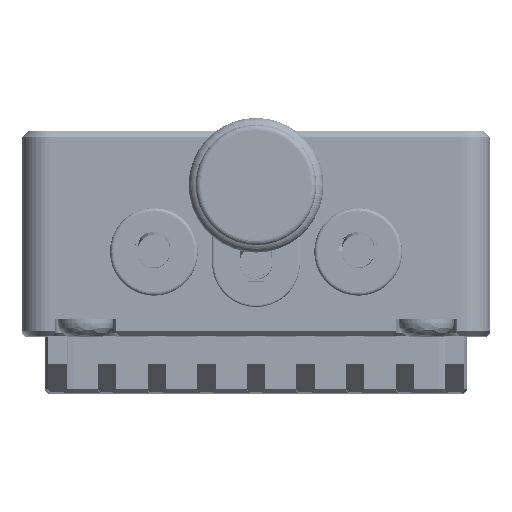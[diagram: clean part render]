
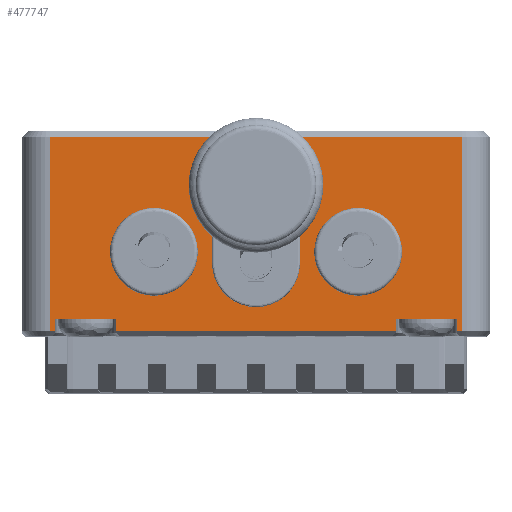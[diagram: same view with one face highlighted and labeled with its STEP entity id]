
A CAD part, top view. The second image highlights one B-rep face of the part: STEP entity #477747.
In plain terms, the highlighted planar face has unit normal (0, 0, 1).
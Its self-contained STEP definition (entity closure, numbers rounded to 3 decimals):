
#12573=DIRECTION('',(-1.,0.,0.));
#12574=VECTOR('',#12573,0.35);
#12575=CARTESIAN_POINT('',(14.5,-5.6,
35.5));
#12576=LINE('',#12575,#12574);
#12577=DIRECTION('',(0.,1.,0.));
#12578=VECTOR('',#12577,0.9);
#12579=CARTESIAN_POINT('',(14.15,-5.6,35.5));
#12580=LINE('',#12579,#12578);
#12581=DIRECTION('',(1.,0.,0.));
#12582=VECTOR('',#12581,4.3);
#12583=CARTESIAN_POINT('',(9.85,-4.7,35.5));
#12584=LINE('',#12583,#12582);
#12585=DIRECTION('',(0.,1.,0.));
#12586=VECTOR('',#12585,0.9);
#12587=CARTESIAN_POINT('',(9.85,-5.6,35.5));
#12588=LINE('',#12587,#12586);
#12589=DIRECTION('',(-1.,0.,0.));
#12590=VECTOR('',#12589,19.7);
#12591=CARTESIAN_POINT('',(9.85,-5.6,35.5));
#12592=LINE('',#12591,#12590);
#12593=DIRECTION('',(0.,1.,0.));
#12594=VECTOR('',#12593,0.9);
#12595=CARTESIAN_POINT('',(-9.85,-5.6,35.5));
#12596=LINE('',#12595,#12594);
#12597=DIRECTION('',(1.,0.,0.));
#12598=VECTOR('',#12597,4.3);
#12599=CARTESIAN_POINT('',(-14.15,-4.7,35.5));
#12600=LINE('',#12599,#12598);
#12601=DIRECTION('',(0.,1.,0.));
#12602=VECTOR('',#12601,0.9);
#12603=CARTESIAN_POINT('',(-14.15,-5.6,35.5));
#12604=LINE('',#12603,#12602);
#12605=DIRECTION('',(-1.,0.,0.));
#12606=VECTOR('',#12605,0.35);
#12607=CARTESIAN_POINT('',(-14.15,-5.6,35.5));
#12608=LINE('',#12607,#12606);
#12609=DIRECTION('',(1.,0.,0.));
#12610=VECTOR('',#12609,29.);
#12611=CARTESIAN_POINT('',(-14.5,8.1,
35.5));
#12612=LINE('',#12611,#12610);
#12613=CARTESIAN_POINT('',(7.2,0.,35.5));
#12614=DIRECTION('',(0.,0.,1.));
#12615=DIRECTION('',(1.,0.,0.));
#12616=AXIS2_PLACEMENT_3D('',#12613,#12614,#12615);
#12618=DIRECTION('',(0.,-1.,0.));
#12619=VECTOR('',#12618,5.4);
#12620=CARTESIAN_POINT('',(-3.1,4.6,35.5));
#12621=LINE('',#12620,#12619);
#12622=DIRECTION('',(0.,1.,0.));
#12623=VECTOR('',#12622,5.4);
#12624=CARTESIAN_POINT('',(3.1,-0.8,35.5));
#12625=LINE('',#12624,#12623);
#12626=CARTESIAN_POINT('',(0.,4.6,35.5));
#12627=DIRECTION('',(0.,0.,-1.));
#12628=DIRECTION('',(-1.,0.,0.));
#12629=AXIS2_PLACEMENT_3D('',#12626,#12627,#12628);
#12631=CARTESIAN_POINT('',(-7.2,0.,35.5));
#12632=DIRECTION('',(0.,0.,1.));
#12633=DIRECTION('',(1.,0.,0.));
#12634=AXIS2_PLACEMENT_3D('',#12631,#12632,#12633);
#12645=DIRECTION('',(0.,1.,0.));
#12646=VECTOR('',#12645,13.7);
#12647=CARTESIAN_POINT('',(14.5,-5.6,
35.5));
#12648=LINE('',#12647,#12646);
#13696=DIRECTION('',(0.,-1.,0.));
#13697=VECTOR('',#13696,13.7);
#13698=CARTESIAN_POINT('',(-14.5,8.1,
35.5));
#13699=LINE('',#13698,#13697);
#82278=CARTESIAN_POINT('',(7.2,0.,35.5));
#82279=DIRECTION('',(0.,0.,1.));
#82280=DIRECTION('',(-1.,0.,0.));
#82281=AXIS2_PLACEMENT_3D('',#82278,#82279,#82280);
#82440=CARTESIAN_POINT('',(0.,-0.8,35.5));
#82441=DIRECTION('',(0.,0.,-1.));
#82442=DIRECTION('',(1.,0.,0.));
#82443=AXIS2_PLACEMENT_3D('',#82440,#82441,#82442);
#83107=CARTESIAN_POINT('',(-7.2,0.,35.5));
#83108=DIRECTION('',(0.,0.,1.));
#83109=DIRECTION('',(-1.,0.,0.));
#83110=AXIS2_PLACEMENT_3D('',#83107,#83108,#83109);
#412908=CARTESIAN_POINT('',(-14.5,8.1,35.5));
#412910=VERTEX_POINT('',#412908);
#412913=CARTESIAN_POINT('',(14.5,8.1,
35.5));
#412914=VERTEX_POINT('',#412913);
#413352=CARTESIAN_POINT('',(-3.1,4.6,35.5));
#413353=CARTESIAN_POINT('',(3.1,4.6,35.5));
#413354=VERTEX_POINT('',#413352);
#413355=VERTEX_POINT('',#413353);
#415115=CARTESIAN_POINT('',(14.5,-5.6,35.5));
#415116=VERTEX_POINT('',#415115);
#415121=CARTESIAN_POINT('',(-14.5,-5.6,35.5));
#415123=VERTEX_POINT('',#415121);
#415207=CARTESIAN_POINT('',(-14.15,-4.7,35.5));
#415208=CARTESIAN_POINT('',(-9.85,-4.7,35.5));
#415209=VERTEX_POINT('',#415207);
#415210=VERTEX_POINT('',#415208);
#415211=CARTESIAN_POINT('',(9.85,-4.7,35.5));
#415212=CARTESIAN_POINT('',(14.15,-4.7,35.5));
#415213=VERTEX_POINT('',#415211);
#415214=VERTEX_POINT('',#415212);
#415231=CARTESIAN_POINT('',(14.15,-5.6,35.5));
#415232=VERTEX_POINT('',#415231);
#415233=CARTESIAN_POINT('',(9.85,-5.6,35.5));
#415234=CARTESIAN_POINT('',(-9.85,-5.6,35.5));
#415235=VERTEX_POINT('',#415233);
#415236=VERTEX_POINT('',#415234);
#415237=CARTESIAN_POINT('',(-14.15,-5.6,35.5));
#415238=VERTEX_POINT('',#415237);
#415447=CARTESIAN_POINT('',(3.1,-0.8,35.5));
#415448=CARTESIAN_POINT('',(-3.1,-0.8,35.5));
#415449=VERTEX_POINT('',#415447);
#415450=VERTEX_POINT('',#415448);
#415470=CARTESIAN_POINT('',(4.1,0.,35.5));
#415471=CARTESIAN_POINT('',(10.3,0.,35.5));
#415472=VERTEX_POINT('',#415470);
#415473=VERTEX_POINT('',#415471);
#415488=CARTESIAN_POINT('',(-10.3,0.,35.5));
#415489=CARTESIAN_POINT('',(-4.1,0.,35.5));
#415490=VERTEX_POINT('',#415488);
#415491=VERTEX_POINT('',#415489);
#477695=CARTESIAN_POINT('',(-16.5,0.,35.5));
#477696=DIRECTION('',(0.,0.,1.));
#477697=DIRECTION('',(1.,0.,0.));
#477698=AXIS2_PLACEMENT_3D('',#477695,#477696,#477697);
#477699=PLANE('',#477698);
#477701=ORIENTED_EDGE('',*,*,#477700,.F.);
#477703=ORIENTED_EDGE('',*,*,#477702,.T.);
#477705=ORIENTED_EDGE('',*,*,#477704,.T.);
#477707=ORIENTED_EDGE('',*,*,#477706,.F.);
#477709=ORIENTED_EDGE('',*,*,#477708,.F.);
#477711=ORIENTED_EDGE('',*,*,#477710,.T.);
#477713=ORIENTED_EDGE('',*,*,#477712,.T.);
#477715=ORIENTED_EDGE('',*,*,#477714,.F.);
#477717=ORIENTED_EDGE('',*,*,#477716,.F.);
#477719=ORIENTED_EDGE('',*,*,#477718,.T.);
#477721=ORIENTED_EDGE('',*,*,#477720,.F.);
#477723=ORIENTED_EDGE('',*,*,#477722,.T.);
#477724=EDGE_LOOP('',(#477701,#477703,#477705,#477707,#477709,#477711,#477713,
#477715,#477717,#477719,#477721,#477723));
#477725=FACE_OUTER_BOUND('',#477724,.F.);
#477727=ORIENTED_EDGE('',*,*,#477726,.T.);
#477729=ORIENTED_EDGE('',*,*,#477728,.T.);
#477730=EDGE_LOOP('',(#477727,#477729));
#477731=FACE_BOUND('',#477730,.F.);
#477733=ORIENTED_EDGE('',*,*,#477732,.T.);
#477735=ORIENTED_EDGE('',*,*,#477734,.F.);
#477737=ORIENTED_EDGE('',*,*,#477736,.T.);
#477739=ORIENTED_EDGE('',*,*,#477738,.F.);
#477740=EDGE_LOOP('',(#477733,#477735,#477737,#477739));
#477741=FACE_BOUND('',#477740,.F.);
#477742=ORIENTED_EDGE('',*,*,#477678,.T.);
#477744=ORIENTED_EDGE('',*,*,#477743,.T.);
#477745=EDGE_LOOP('',(#477742,#477744));
#477746=FACE_BOUND('',#477745,.F.);
#477747=ADVANCED_FACE('',(#477725,#477731,#477741,#477746),#477699,.T.);
#12617=CIRCLE('',#12616,3.1);
#12630=CIRCLE('',#12629,3.1);
#12635=CIRCLE('',#12634,3.1);
#82282=CIRCLE('',#82281,3.1);
#82444=CIRCLE('',#82443,3.1);
#83111=CIRCLE('',#83110,3.1);
#477678=EDGE_CURVE('',#415491,#415490,#12635,.T.);
#477700=EDGE_CURVE('',#415116,#412914,#12648,.T.);
#477702=EDGE_CURVE('',#415116,#415232,#12576,.T.);
#477704=EDGE_CURVE('',#415232,#415214,#12580,.T.);
#477706=EDGE_CURVE('',#415213,#415214,#12584,.T.);
#477708=EDGE_CURVE('',#415235,#415213,#12588,.T.);
#477710=EDGE_CURVE('',#415235,#415236,#12592,.T.);
#477712=EDGE_CURVE('',#415236,#415210,#12596,.T.);
#477714=EDGE_CURVE('',#415209,#415210,#12600,.T.);
#477716=EDGE_CURVE('',#415238,#415209,#12604,.T.);
#477718=EDGE_CURVE('',#415238,#415123,#12608,.T.);
#477720=EDGE_CURVE('',#412910,#415123,#13699,.T.);
#477722=EDGE_CURVE('',#412910,#412914,#12612,.T.);
#477726=EDGE_CURVE('',#415473,#415472,#12617,.T.);
#477728=EDGE_CURVE('',#415472,#415473,#82282,.T.);
#477732=EDGE_CURVE('',#413354,#415450,#12621,.T.);
#477734=EDGE_CURVE('',#415449,#415450,#82444,.T.);
#477736=EDGE_CURVE('',#415449,#413355,#12625,.T.);
#477738=EDGE_CURVE('',#413354,#413355,#12630,.T.);
#477743=EDGE_CURVE('',#415490,#415491,#83111,.T.);
